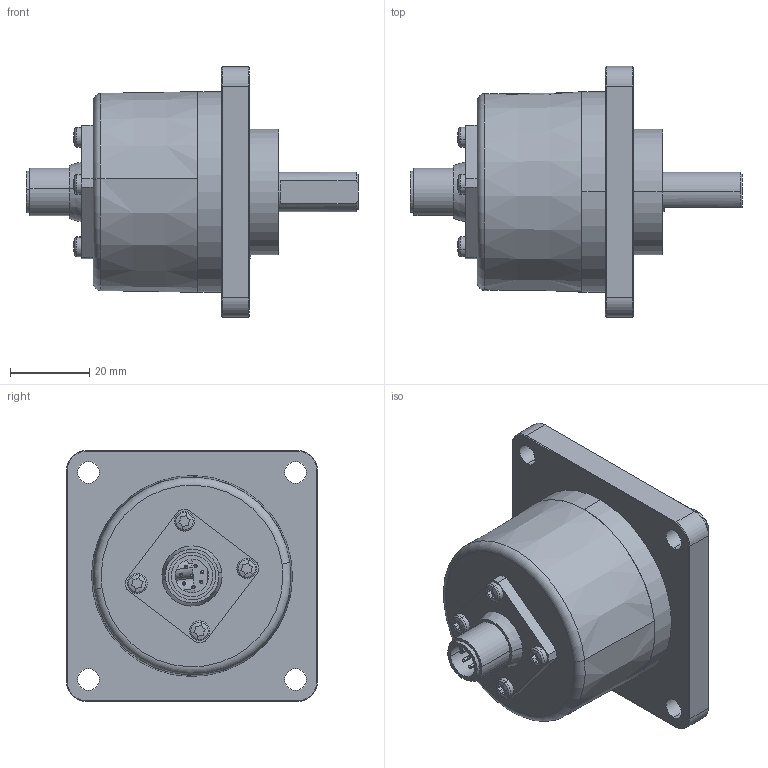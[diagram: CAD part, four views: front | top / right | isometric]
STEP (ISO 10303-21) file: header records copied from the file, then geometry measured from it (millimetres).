
FILE_DESCRIPTION (( 'STEP AP203' ), '1' );
FILE_NAME ('5000.3DX3.XXXX.STEP', '2011-01-04T09:31:59', ( 'admin' ), ( 'Fritz Kübler GmbH' ), 'SwSTEP 2.0', 'SolidWorks 2009', '' );
FILE_SCHEMA (( 'CONFIG_CONTROL_DESIGN' ));
Length unit declared in the file: millimetre
Products named in the file (1): 5000.3DX3.XXXX
Bounding box: 84 x 63.5 x 63.5 mm (x, y, z)
Surface area: 21417.2 mm2 (no closed solid volume)
Topology: 0 solids, 21 shells, 245 faces, 697 edges, 441 vertices
Faces by surface type: plane 91, cylinder 69, sphere 44, cone 23, torus 18
Entity records: 8059 total; most frequent: CARTESIAN_POINT 1920, DIRECTION 1382, ORIENTED_EDGE 1134, EDGE_CURVE 613, AXIS2_PLACEMENT_3D 565, VERTEX_POINT 395, CIRCLE 319, EDGE_LOOP 297
